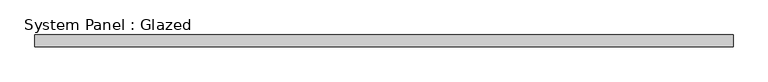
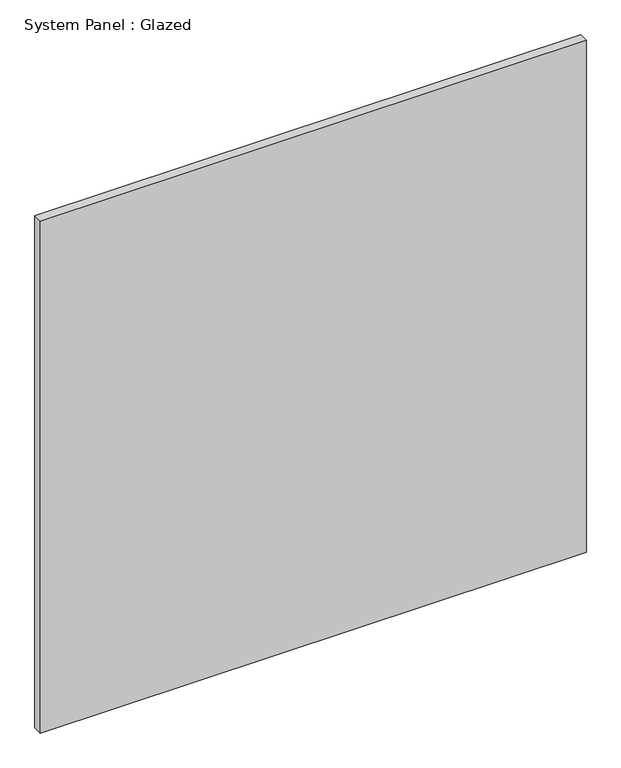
"""IFC4 building model written with IfcOpenShell, lengths in millimetres: plate geometry, System Panel : Glazed."""

from ifc_helpers import new_model, si_unit, origin, origin_with_axes, place, context, project, spatial, polyline, outline, extrude, source, transform, mapped, element, save


def system_panel_glazed_ee2fd1b9(model_context):
    return source(origin(), model_context, "Body", "SweptSolid", [
        extrude(outline(polyline([(724.5000001, 24.5), (-724.5000001, 24.5), (-724.5000001, 49.5), (724.5000001, 49.5), (724.5000001, 24.5)])), origin_with_axes(), (0.0, 0.0, 1.0), 1435.6),
    ])


if __name__ == "__main__":
    model = new_model("IFC4")
    model_context = context("Model", 3, world=origin())
    ifc_project = project(units=[si_unit("LENGTHUNIT", "METRE", prefix="MILLI")], contexts=[model_context])
    site = spatial("IfcSite", under=ifc_project)
    building = spatial("IfcBuilding", under=site)
    placement = place(None, origin())
    system_panel_glazed_shape = system_panel_glazed_ee2fd1b9(model_context)
    element("IfcPlate", 1, ObjectType="System Panel : Glazed", at=placement, inside=building, context=model_context, shape_type="MappedRepresentation", body=[
        mapped(system_panel_glazed_shape, transform((0.0, 0.0, 0.0), x_axis=(1.0, 0.0, 0.0), y_axis=(0.0, 1.0, 0.0), z_axis=(0.0, 0.0, 1.0))),
    ])
    save(model, "model.ifc")
